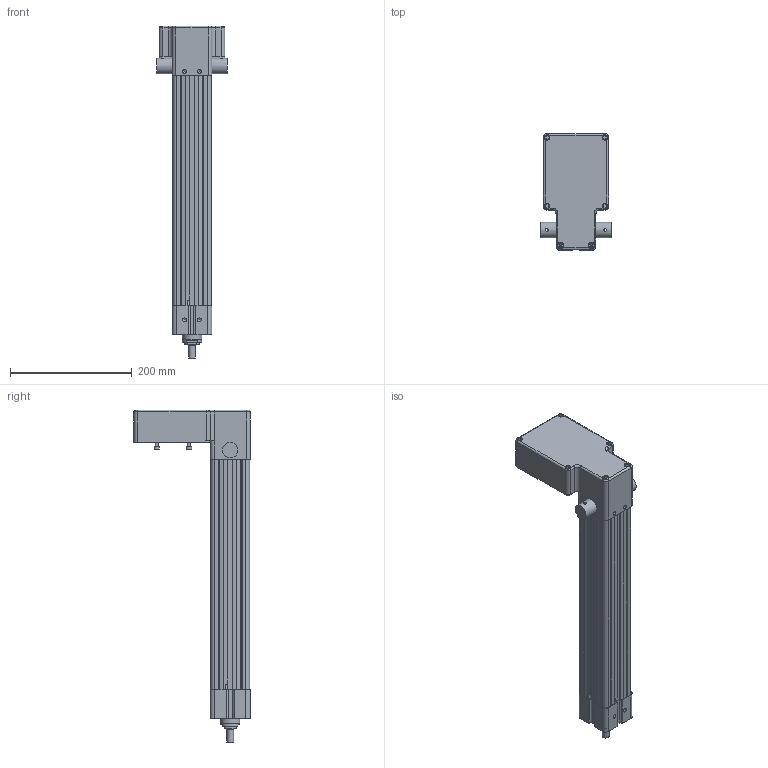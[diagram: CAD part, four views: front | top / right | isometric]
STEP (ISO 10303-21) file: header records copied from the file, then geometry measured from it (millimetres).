
FILE_DESCRIPTION (( 'STEP AP203' ), '1' );
FILE_NAME ('RSA32_BN05_SK11.000_RS-492595-1.step', '2025-07-10T20:05:11', ( '' ), ( '' ), 'SwSTEP 2.0', 'SolidWorks 2024', '' );
FILE_SCHEMA (( 'CONFIG_CONTROL_DESIGN' ));
Length unit declared in the file: inch
Products named in the file (6): Base_RSA32_BN05_SK11.000_RS-492595-1; 11241057_RSA32_BN05_SK11.000_RS-492595-1; tempJoin2_11329809_RSA32_BN05_SK11.000_RS-492595-1; tempJoin7_83169035_RSA32_BN05_SK11.000_RS-492595-1; temp1_11321783_RSA32_BN05_SK11.000_RS-492595-1_YMH-RP; RSA32_BN05_SK11.000_RS-492595-1
Assembly tree (5 placements, depth 2):
  RSA32_BN05_SK11.000_RS-492595-1
    tempJoin2_11329809_RSA32_BN05_SK11.000_RS-492595-1
    11241057_RSA32_BN05_SK11.000_RS-492595-1
    temp1_11321783_RSA32_BN05_SK11.000_RS-492595-1_YMH-RP
    tempJoin7_83169035_RSA32_BN05_SK11.000_RS-492595-1
    Base_RSA32_BN05_SK11.000_RS-492595-1
Bounding box: 116.33 x 190.88 x 544.63 mm (x, y, z)
Volume: 1896174.3 mm3; surface area: 417288.2 mm2
Topology: 15 solids, 32 shells, 794 faces, 1908 edges, 1226 vertices
Faces by surface type: plane 485, cylinder 226, cone 66, torus 16, bspline 1
Full cylindrical faces by diameter (mm): 3.967 x1, 4.2 x12, 4.572 x2, 4.826 x1, 4.978 x4, 5 x8, 5.61 x4, 6 x6, 6.35 x4, 6.528 x4, 7.14 x2, 7.925 x1, 8.331 x1, 8.5 x8, 8.572 x2, 9.144 x4, 9.921 x1, 10 x6, 11.1 x2, 11.112 x2, 11.938 x4, 12.7 x1, 14 x1, 19.05 x1, 19.075 x1, 22.352 x1, 25.39 x2, 26.194 x1, 27.762 x1, 31.521 x1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
Entity records: 22981 total; most frequent: CARTESIAN_POINT 4408, DIRECTION 3864, ORIENTED_EDGE 3388, EDGE_CURVE 1694, AXIS2_PLACEMENT_3D 1436, VERTEX_POINT 1160, EDGE_LOOP 1036, VECTOR 992
